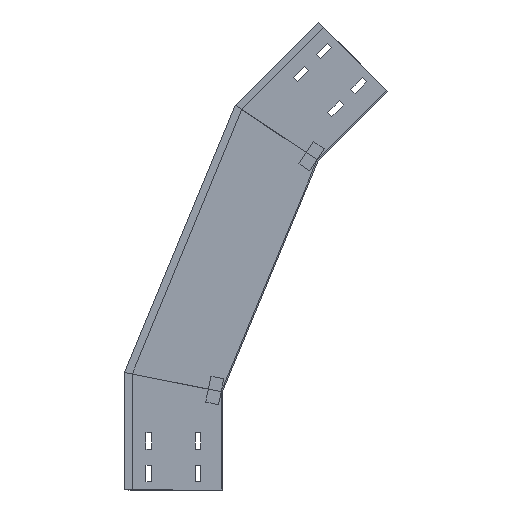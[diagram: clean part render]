
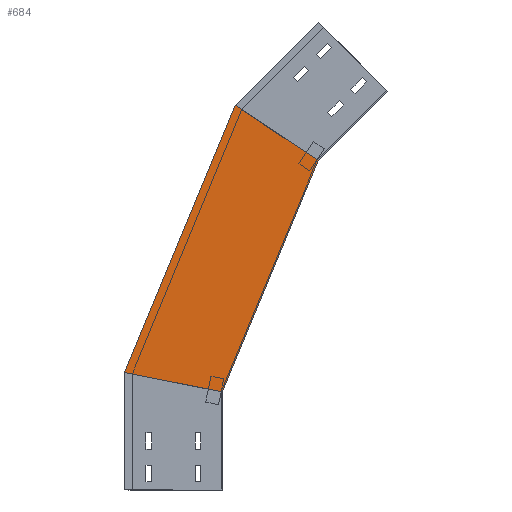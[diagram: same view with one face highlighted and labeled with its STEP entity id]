
A CAD part, left-side view. The second image highlights one B-rep face of the part: STEP entity #684.
In plain terms, the highlighted planar face has unit normal (-1, 0, 0) as drawn and (1, 0, 0) by its records, which use the part's own axes.
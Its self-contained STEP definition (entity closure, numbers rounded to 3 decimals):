
#2 = CARTESIAN_POINT ( 'NONE',  ( 0., -146.568, 503.846 ) ) ;
#7 = DIRECTION ( 'NONE',  ( 1., 0., 0. ) ) ;
#10 = CARTESIAN_POINT ( 'NONE',  ( 0., 150., 179.837 ) ) ;
#198 = EDGE_CURVE ( 'NONE', #809, #1623, #724, .T. ) ;
#339 = EDGE_CURVE ( 'NONE', #1087, #481, #1092, .T. ) ;
#396 = VECTOR ( 'NONE', #1789, 1000. ) ;
#405 = ORIENTED_EDGE ( 'NONE', *, *, #1290, .T. ) ;
#406 = CARTESIAN_POINT ( 'NONE',  ( 0., -19.404, 588.814 ) ) ;
#424 = AXIS2_PLACEMENT_3D ( 'NONE', #806, #7, #1871 ) ;
#481 = VERTEX_POINT ( 'NONE', #406 ) ;
#494 = EDGE_LOOP ( 'NONE', ( #947, #405, #615, #1991 ) ) ;
#576 = CARTESIAN_POINT ( 'NONE',  ( 0., 151.18, 176.988 ) ) ;
#615 = ORIENTED_EDGE ( 'NONE', *, *, #198, .F. ) ;
#670 = LINE ( 'NONE', #1752, #1580 ) ;
#684 = ADVANCED_FACE ( 'NONE', ( #1576 ), #1858, .T. ) ;
#724 = LINE ( 'NONE', #1512, #396 ) ;
#744 = DIRECTION ( 'NONE',  ( 0., -0.981, -0.195 ) ) ;
#806 = CARTESIAN_POINT ( 'NONE',  ( 0., 12.598, 119.585 ) ) ;
#809 = VERTEX_POINT ( 'NONE', #1447 ) ;
#905 = LINE ( 'NONE', #1522, #1389 ) ;
#947 = ORIENTED_EDGE ( 'NONE', *, *, #339, .T. ) ;
#959 = EDGE_CURVE ( 'NONE', #1087, #809, #905, .T. ) ;
#1087 = VERTEX_POINT ( 'NONE', #10 ) ;
#1092 = LINE ( 'NONE', #576, #1703 ) ;
#1127 = DIRECTION ( 'NONE',  ( 0., -0.383, 0.924 ) ) ;
#1290 = EDGE_CURVE ( 'NONE', #481, #1623, #670, .T. ) ;
#1389 = VECTOR ( 'NONE', #744, 1000. ) ;
#1447 = CARTESIAN_POINT ( 'NONE',  ( 0., 0., 150. ) ) ;
#1512 = CARTESIAN_POINT ( 'NONE',  ( 0., 12.598, 119.585 ) ) ;
#1522 = CARTESIAN_POINT ( 'NONE',  ( 0., -28.701, 144.291 ) ) ;
#1576 = FACE_OUTER_BOUND ( 'NONE', #494, .T. ) ;
#1580 = VECTOR ( 'NONE', #1939, 1000. ) ;
#1623 = VERTEX_POINT ( 'NONE', #2 ) ;
#1703 = VECTOR ( 'NONE', #1127, 1000. ) ;
#1752 = CARTESIAN_POINT ( 'NONE',  ( 0., -214.035, 458.766 ) ) ;
#1789 = DIRECTION ( 'NONE',  ( 0., -0.383, 0.924 ) ) ;
#1858 = PLANE ( 'NONE',  #424 ) ;
#1871 = DIRECTION ( 'NONE',  ( 0., 0., -1. ) ) ;
#1939 = DIRECTION ( 'NONE',  ( 0., -0.831, -0.556 ) ) ;
#1991 = ORIENTED_EDGE ( 'NONE', *, *, #959, .F. ) ;
